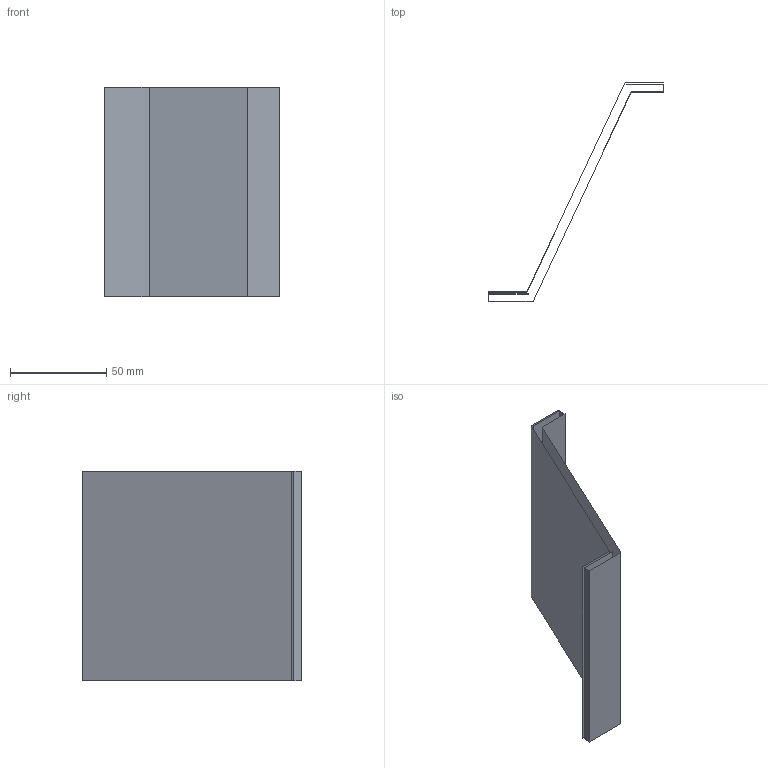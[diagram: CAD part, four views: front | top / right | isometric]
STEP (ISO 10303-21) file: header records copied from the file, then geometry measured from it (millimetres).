
FILE_DESCRIPTION(('CATIA V5 STEP Exchange'),'2;1');
FILE_NAME('C:\_Andres\UNIVERSIDAD\IQS\ASIGNATURAS\DAO\EXF\EXF-16172c\2inicio\Domeque_Sanz_Ej06_v9.stp','2017-03-05T21:01:23+00:00',('none'),('none'),'CATIA Version 5-6 Release 2014 SP1 HF18','CATIA V5 STEP AP203','none');
FILE_SCHEMA(('CONFIG_CONTROL_DESIGN'));
Length unit declared in the file: millimetre
Products named in the file (1): Domeque_Sanz_Ej06_v9
Bounding box: 91 x 114 x 109 mm (x, y, z)
Surface area: 40186.4 mm2 (no closed solid volume)
Topology: 0 solids, 2 shells, 10 faces, 42 edges, 36 vertices
Faces by surface type: plane 10
Entity records: 461 total; most frequent: CARTESIAN_POINT 100, DIRECTION 59, ORIENTED_EDGE 40, VECTOR 39, LINE 39, EDGE_CURVE 32, VERTEX_POINT 24, AXIS2_PLACEMENT_3D 11
